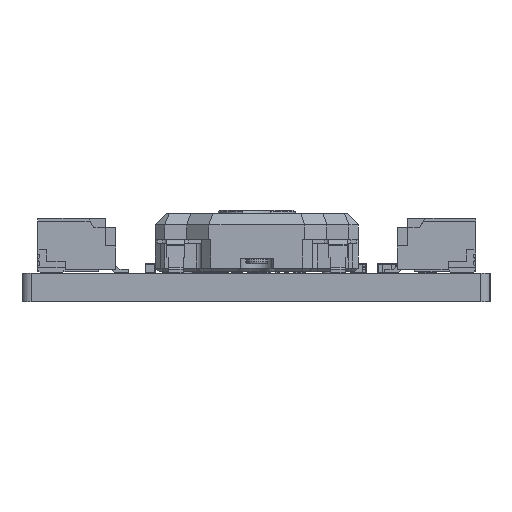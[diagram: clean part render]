
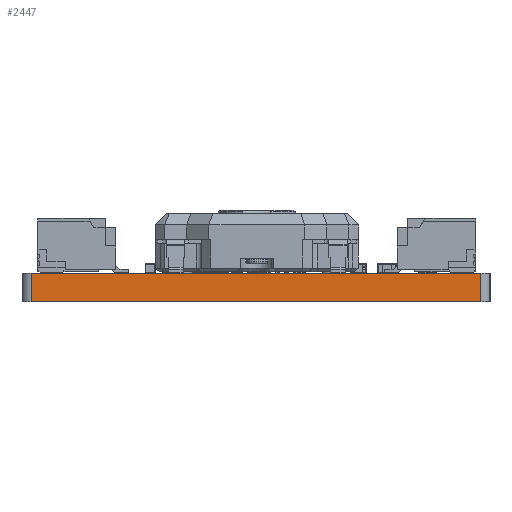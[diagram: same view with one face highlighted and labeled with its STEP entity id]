
A CAD part, left-side view. The second image highlights one B-rep face of the part: STEP entity #2447.
In plain terms, the highlighted planar face has unit normal (-1, 0, 0).
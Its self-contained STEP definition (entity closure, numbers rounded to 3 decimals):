
#2447=ADVANCED_FACE('',(#5833),#5834,.T.);
#5833=FACE_OUTER_BOUND('',#10311,.T.);
#5834=PLANE('',#10312);
#10311=EDGE_LOOP('',(#14683,#14684,#14685,#14686));
#10312=AXIS2_PLACEMENT_3D('',#14687,#14688,#14689);
#14683=ORIENTED_EDGE('',*,*,#26974,.F.);
#14684=ORIENTED_EDGE('',*,*,#27044,.T.);
#14685=ORIENTED_EDGE('',*,*,#27002,.T.);
#14686=ORIENTED_EDGE('',*,*,#27056,.F.);
#14687=CARTESIAN_POINT('',(-2.54,22.36,0.034));
#14688=DIRECTION('',(-1.0,0.0,0.));
#14689=DIRECTION('',(0.,-0.0,1.0));
#26974=EDGE_CURVE('',#31950,#31951,#31952,.T.);
#27002=EDGE_CURVE('',#32005,#32006,#32007,.T.);
#27044=EDGE_CURVE('',#31950,#32005,#32055,.T.);
#27056=EDGE_CURVE('',#31951,#32006,#32067,.T.);
#31950=VERTEX_POINT('',#39224);
#31951=VERTEX_POINT('',#39225);
#31952=LINE('',#39226,#39227);
#32005=VERTEX_POINT('',#39290);
#32006=VERTEX_POINT('',#39291);
#32007=LINE('',#39292,#39293);
#32055=LINE('',#39358,#39359);
#32067=LINE('',#39376,#39377);
#39224=CARTESIAN_POINT('',(-2.54,22.36,1.564));
#39225=CARTESIAN_POINT('',(-2.54,-2.04,1.564));
#39226=CARTESIAN_POINT('',(-2.54,10.16,1.564));
#39227=VECTOR('',#49588,1.0);
#39290=CARTESIAN_POINT('',(-2.54,22.36,0.034));
#39291=CARTESIAN_POINT('',(-2.54,-2.04,0.034));
#39292=CARTESIAN_POINT('',(-2.54,22.36,0.034));
#39293=VECTOR('',#49647,1.0);
#39358=CARTESIAN_POINT('',(-2.54,22.36,0.799));
#39359=VECTOR('',#49677,1.0);
#39376=CARTESIAN_POINT('',(-2.54,-2.04,0.799));
#39377=VECTOR('',#49683,1.0);
#49588=DIRECTION('',(0.0,-1.0,0.0));
#49647=DIRECTION('',(0.0,-1.0,0.0));
#49677=DIRECTION('',(0.,0.,-1.0));
#49683=DIRECTION('',(0.,0.,-1.0));
